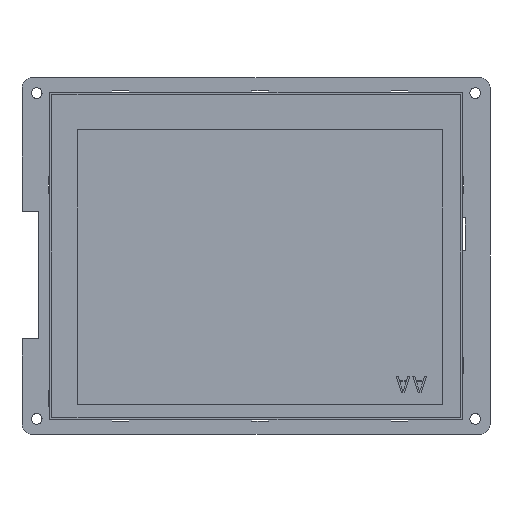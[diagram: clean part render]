
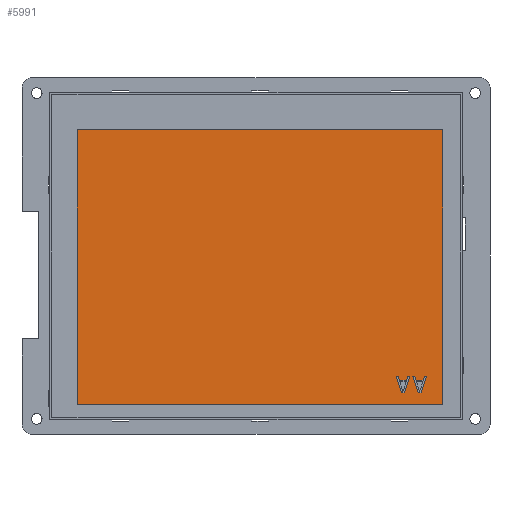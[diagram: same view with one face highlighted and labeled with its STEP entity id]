
A CAD part, front view. The second image highlights one B-rep face of the part: STEP entity #5991.
In plain terms, the highlighted planar face has unit normal (0, -1, 0) as drawn and (0, 1, 0) by its records, which use the part's own axes.
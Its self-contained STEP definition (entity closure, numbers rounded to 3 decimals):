
#5418=DIRECTION('',(0.,0.,1.));
#5419=VECTOR('',#5418,85.);
#5420=CARTESIAN_POINT('',(-57.7,1.45,-45.95));
#5421=LINE('',#5420,#5419);
#5422=DIRECTION('',(-1.,0.,0.));
#5423=VECTOR('',#5422,113.);
#5424=CARTESIAN_POINT('',(55.3,1.45,-45.95));
#5425=LINE('',#5424,#5423);
#5426=DIRECTION('',(0.,0.,-1.));
#5427=VECTOR('',#5426,85.);
#5428=CARTESIAN_POINT('',(55.3,1.45,39.05));
#5429=LINE('',#5428,#5427);
#5430=DIRECTION('',(1.,0.,0.));
#5431=VECTOR('',#5430,113.);
#5432=CARTESIAN_POINT('',(-57.7,1.45,39.05));
#5433=LINE('',#5432,#5431);
#5434=DIRECTION('',(0.316,0.,0.949));
#5435=VECTOR('',#5434,5.429);
#5436=CARTESIAN_POINT('',(-50.113,1.45,-42.304));
#5437=LINE('',#5436,#5435);
#5438=DIRECTION('',(1.,0.,0.));
#5439=VECTOR('',#5438,0.858);
#5440=CARTESIAN_POINT('',(-50.971,1.45,-42.304));
#5441=LINE('',#5440,#5439);
#5442=DIRECTION('',(0.316,0.,-0.949));
#5443=VECTOR('',#5442,5.429);
#5444=CARTESIAN_POINT('',(-52.688,1.45,-37.154));
#5445=LINE('',#5444,#5443);
#5446=DIRECTION('',(-1.,0.,0.));
#5447=VECTOR('',#5446,0.644);
#5448=CARTESIAN_POINT('',(-52.044,1.45,-37.154));
#5449=LINE('',#5448,#5447);
#5450=DIRECTION('',(-0.31,0.,0.951));
#5451=VECTOR('',#5450,1.383);
#5452=CARTESIAN_POINT('',(-51.615,1.45,-38.469));
#5453=LINE('',#5452,#5451);
#5454=DIRECTION('',(-1.,0.,0.));
#5455=VECTOR('',#5454,2.146);
#5456=CARTESIAN_POINT('',(-49.469,1.45,-38.469));
#5457=LINE('',#5456,#5455);
#5458=DIRECTION('',(-0.31,0.,-0.951));
#5459=VECTOR('',#5458,1.383);
#5460=CARTESIAN_POINT('',(-49.04,1.45,-37.154));
#5461=LINE('',#5460,#5459);
#5462=DIRECTION('',(-1.,0.,0.));
#5463=VECTOR('',#5462,0.644);
#5464=CARTESIAN_POINT('',(-48.396,1.45,-37.154));
#5465=LINE('',#5464,#5463);
#5478=DIRECTION('',(0.316,0.,0.949));
#5479=VECTOR('',#5478,5.429);
#5480=CARTESIAN_POINT('',(-44.963,1.45,-42.304));
#5481=LINE('',#5480,#5479);
#5482=DIRECTION('',(1.,0.,0.));
#5483=VECTOR('',#5482,0.858);
#5484=CARTESIAN_POINT('',(-45.821,1.45,-42.304));
#5485=LINE('',#5484,#5483);
#5486=DIRECTION('',(0.316,0.,-0.949));
#5487=VECTOR('',#5486,5.429);
#5488=CARTESIAN_POINT('',(-47.538,1.45,-37.154));
#5489=LINE('',#5488,#5487);
#5490=DIRECTION('',(-1.,0.,0.));
#5491=VECTOR('',#5490,0.644);
#5492=CARTESIAN_POINT('',(-46.894,1.45,-37.154));
#5493=LINE('',#5492,#5491);
#5494=DIRECTION('',(-0.31,0.,0.951));
#5495=VECTOR('',#5494,1.383);
#5496=CARTESIAN_POINT('',(-46.465,1.45,-38.469));
#5497=LINE('',#5496,#5495);
#5498=DIRECTION('',(-1.,0.,0.));
#5499=VECTOR('',#5498,2.146);
#5500=CARTESIAN_POINT('',(-44.319,1.45,-38.469));
#5501=LINE('',#5500,#5499);
#5502=DIRECTION('',(-0.31,0.,-0.951));
#5503=VECTOR('',#5502,1.383);
#5504=CARTESIAN_POINT('',(-43.89,1.45,-37.154));
#5505=LINE('',#5504,#5503);
#5506=DIRECTION('',(-1.,0.,0.));
#5507=VECTOR('',#5506,0.644);
#5508=CARTESIAN_POINT('',(-43.246,1.45,-37.154));
#5509=LINE('',#5508,#5507);
#5626=CARTESIAN_POINT('',(-57.7,1.45,-45.95));
#5627=CARTESIAN_POINT('',(-57.7,1.45,39.05));
#5628=VERTEX_POINT('',#5626);
#5629=VERTEX_POINT('',#5627);
#5630=CARTESIAN_POINT('',(55.3,1.45,39.05));
#5631=VERTEX_POINT('',#5630);
#5632=CARTESIAN_POINT('',(55.3,1.45,-45.95));
#5633=VERTEX_POINT('',#5632);
#5634=CARTESIAN_POINT('',(-50.113,1.45,-42.304));
#5635=CARTESIAN_POINT('',(-48.396,1.45,-37.154));
#5636=VERTEX_POINT('',#5634);
#5637=VERTEX_POINT('',#5635);
#5638=CARTESIAN_POINT('',(-49.04,1.45,-37.154));
#5639=VERTEX_POINT('',#5638);
#5640=CARTESIAN_POINT('',(-49.469,1.45,-38.469));
#5641=VERTEX_POINT('',#5640);
#5642=CARTESIAN_POINT('',(-51.615,1.45,-38.469));
#5643=VERTEX_POINT('',#5642);
#5644=CARTESIAN_POINT('',(-52.044,1.45,-37.154));
#5645=VERTEX_POINT('',#5644);
#5646=CARTESIAN_POINT('',(-52.688,1.45,-37.154));
#5647=VERTEX_POINT('',#5646);
#5648=CARTESIAN_POINT('',(-50.971,1.45,-42.304));
#5649=VERTEX_POINT('',#5648);
#5656=CARTESIAN_POINT('',(-44.963,1.45,-42.304));
#5657=CARTESIAN_POINT('',(-43.246,1.45,-37.154));
#5658=VERTEX_POINT('',#5656);
#5659=VERTEX_POINT('',#5657);
#5660=CARTESIAN_POINT('',(-43.89,1.45,-37.154));
#5661=VERTEX_POINT('',#5660);
#5662=CARTESIAN_POINT('',(-44.319,1.45,-38.469));
#5663=VERTEX_POINT('',#5662);
#5664=CARTESIAN_POINT('',(-46.465,1.45,-38.469));
#5665=VERTEX_POINT('',#5664);
#5666=CARTESIAN_POINT('',(-46.894,1.45,-37.154));
#5667=VERTEX_POINT('',#5666);
#5668=CARTESIAN_POINT('',(-47.538,1.45,-37.154));
#5669=VERTEX_POINT('',#5668);
#5670=CARTESIAN_POINT('',(-45.821,1.45,-42.304));
#5671=VERTEX_POINT('',#5670);
#5944=CARTESIAN_POINT('',(0.,1.45,0.));
#5945=DIRECTION('',(0.,1.,0.));
#5946=DIRECTION('',(1.,0.,0.));
#5947=AXIS2_PLACEMENT_3D('',#5944,#5945,#5946);
#5948=PLANE('',#5947);
#5949=ORIENTED_EDGE('',*,*,#5896,.F.);
#5950=ORIENTED_EDGE('',*,*,#5911,.F.);
#5951=ORIENTED_EDGE('',*,*,#5925,.F.);
#5952=ORIENTED_EDGE('',*,*,#5938,.F.);
#5953=EDGE_LOOP('',(#5949,#5950,#5951,#5952));
#5954=FACE_OUTER_BOUND('',#5953,.F.);
#5956=ORIENTED_EDGE('',*,*,#5955,.F.);
#5958=ORIENTED_EDGE('',*,*,#5957,.F.);
#5960=ORIENTED_EDGE('',*,*,#5959,.F.);
#5962=ORIENTED_EDGE('',*,*,#5961,.F.);
#5964=ORIENTED_EDGE('',*,*,#5963,.F.);
#5966=ORIENTED_EDGE('',*,*,#5965,.F.);
#5968=ORIENTED_EDGE('',*,*,#5967,.F.);
#5970=ORIENTED_EDGE('',*,*,#5969,.F.);
#5971=EDGE_LOOP('',(#5956,#5958,#5960,#5962,#5964,#5966,#5968,#5970));
#5972=FACE_BOUND('',#5971,.F.);
#5974=ORIENTED_EDGE('',*,*,#5973,.F.);
#5976=ORIENTED_EDGE('',*,*,#5975,.F.);
#5978=ORIENTED_EDGE('',*,*,#5977,.F.);
#5980=ORIENTED_EDGE('',*,*,#5979,.F.);
#5982=ORIENTED_EDGE('',*,*,#5981,.F.);
#5984=ORIENTED_EDGE('',*,*,#5983,.F.);
#5986=ORIENTED_EDGE('',*,*,#5985,.F.);
#5988=ORIENTED_EDGE('',*,*,#5987,.F.);
#5989=EDGE_LOOP('',(#5974,#5976,#5978,#5980,#5982,#5984,#5986,#5988));
#5990=FACE_BOUND('',#5989,.F.);
#5896=EDGE_CURVE('',#5628,#5629,#5421,.T.);
#5911=EDGE_CURVE('',#5633,#5628,#5425,.T.);
#5925=EDGE_CURVE('',#5631,#5633,#5429,.T.);
#5938=EDGE_CURVE('',#5629,#5631,#5433,.T.);
#5955=EDGE_CURVE('',#5636,#5637,#5437,.T.);
#5957=EDGE_CURVE('',#5649,#5636,#5441,.T.);
#5959=EDGE_CURVE('',#5647,#5649,#5445,.T.);
#5961=EDGE_CURVE('',#5645,#5647,#5449,.T.);
#5963=EDGE_CURVE('',#5643,#5645,#5453,.T.);
#5965=EDGE_CURVE('',#5641,#5643,#5457,.T.);
#5967=EDGE_CURVE('',#5639,#5641,#5461,.T.);
#5969=EDGE_CURVE('',#5637,#5639,#5465,.T.);
#5973=EDGE_CURVE('',#5658,#5659,#5481,.T.);
#5975=EDGE_CURVE('',#5671,#5658,#5485,.T.);
#5977=EDGE_CURVE('',#5669,#5671,#5489,.T.);
#5979=EDGE_CURVE('',#5667,#5669,#5493,.T.);
#5981=EDGE_CURVE('',#5665,#5667,#5497,.T.);
#5983=EDGE_CURVE('',#5663,#5665,#5501,.T.);
#5985=EDGE_CURVE('',#5661,#5663,#5505,.T.);
#5987=EDGE_CURVE('',#5659,#5661,#5509,.T.);
#5991=ADVANCED_FACE('',(#5954,#5972,#5990),#5948,.T.);
